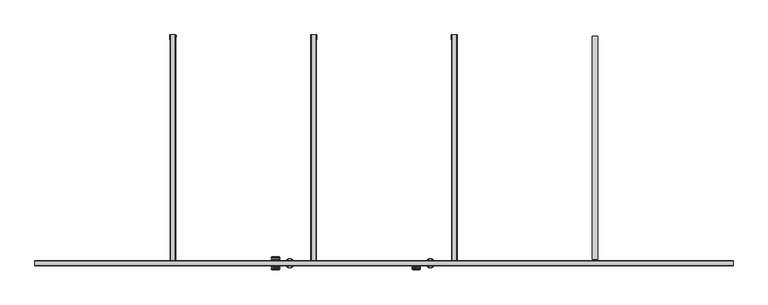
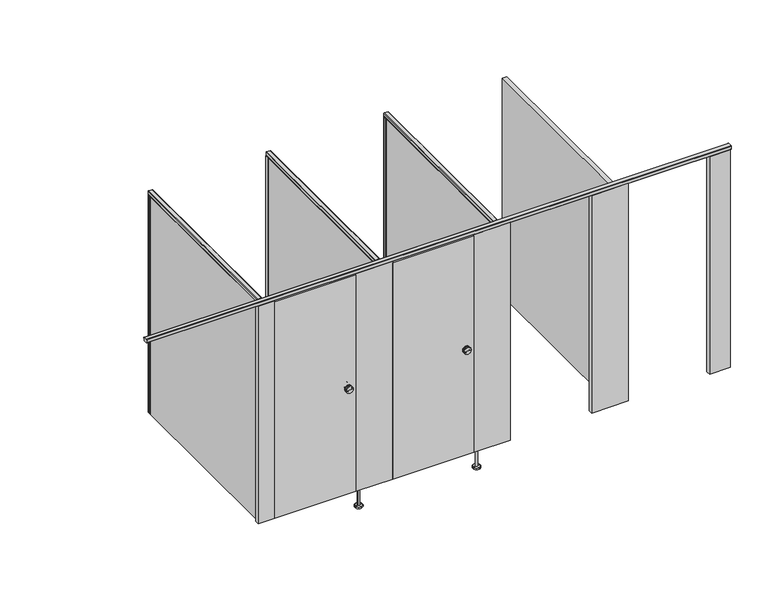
"""IFC4 building model written with IfcOpenShell, lengths in millimetres: proxy geometry, Partition_EuroStyle-Bradley_Corp-1AMB-4StandardStall-NEP-LOFT : Partition_EuroStyle-Bradley_Corp-1AMB-4StandardStall-NEP-LOFT."""

from ifc_helpers import new_model, si_unit, point, frame, frame_2d, origin, place, context, project, spatial, polyline, circle_curve, ellipse_curve, trimmed, segment, composite_curve, outline, extrude, source, transform, mapped, element, save
from ifc_brep_helpers import plane_surface, cylinder_surface, revolved_surface, advanced_brep


def specialty_equipment_0aaabcd9(model_context):
    return source(origin(), model_context, "Body", "SolidModel", [
        advanced_brep(
        [(2448.9221564, -1560.0098174, 1050.0), (2477.4971564, -1560.0098174, 1050.0), (2420.3471564, -1560.0098174, 1050.0), (2477.4971564, -1564.7723174, 1050.0), (2420.3471564, -1564.7723174, 1050.0), (2420.3471564, -1579.0598174, 1050.0), (2477.4971564, -1579.0598174, 1050.0), (2477.4971564, -1583.8223174, 1050.0), (2420.3471564, -1583.8223174, 1050.0), (2421.9346564, -1577.4723174, 1050.0), (2475.9096564, -1577.4723174, 1050.0), (2421.9346564, -1566.3598174, 1050.0), (2475.9096564, -1566.3598174, 1050.0), (2448.9221564, -1585.4098174, 1050.0)],
        [
            (0, 1),
            (1, 2, circle_curve(frame((2448.9221564, -1560.0098174, 1050.0), z_axis=(0.0, 1.0, 0.0), x_axis=(1.0000000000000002, 0.0, 0.0)), 28.575)),
            (2, 0),
            (2, 1, circle_curve(frame((2448.9221564, -1560.0098174, 1050.0), z_axis=(0.0, 1.0, 0.0), x_axis=(1.0000000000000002, 0.0, 0.0)), 28.575)),
            (1, 3),
            (3, 4, circle_curve(frame((2448.9221564, -1564.7723174, 1050.0), z_axis=(0.0, 1.0, 0.0), x_axis=(1.0000000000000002, 0.0, 0.0)), 28.575)),
            (4, 2),
            (4, 3, circle_curve(frame((2448.9221564, -1564.7723174, 1050.0), z_axis=(0.0, 1.0, 0.0), x_axis=(1.0000000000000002, 0.0, 0.0)), 28.575)),
            (5, 6, circle_curve(frame((2448.9221564, -1579.0598174, 1050.0), z_axis=(0.0, -1.0, 0.0), x_axis=(1.0000000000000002, 0.0, 0.0)), 28.575)),
            (6, 7),
            (7, 8, circle_curve(frame((2448.9221564, -1583.8223174, 1050.0), z_axis=(0.0, 1.0, 0.0), x_axis=(1.0000000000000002, 0.0, 0.0)), 28.575)),
            (8, 5),
            (6, 5, circle_curve(frame((2448.9221564, -1579.0598174, 1050.0), z_axis=(0.0, -1.0, 0.0), x_axis=(1.0000000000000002, 0.0, 0.0)), 28.575)),
            (8, 7, circle_curve(frame((2448.9221564, -1583.8223174, 1050.0), z_axis=(0.0, 1.0, 0.0), x_axis=(1.0000000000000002, 0.0, 0.0)), 28.575)),
            (9, 10, circle_curve(frame((2448.9221564, -1577.4723174, 1050.0), z_axis=(0.0, -1.0, 0.0), x_axis=(1.0000000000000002, 0.0, 0.0)), 26.9875)),
            (10, 6, circle_curve(frame((2477.4971564, -1577.4723174, 1050.0), z_axis=(0.0, 0.0, 1.0), x_axis=(1.0000000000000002, 0.0, 0.0)), 1.5875)),
            (5, 9, circle_curve(frame((2420.3471564, -1577.4723174, 1050.0), z_axis=(0.0, 0.0, 1.0), x_axis=(-1.0000000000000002, 0.0, 0.0)), 1.5875)),
            (10, 9, circle_curve(frame((2448.9221564, -1577.4723174, 1050.0), z_axis=(0.0, -1.0, 0.0), x_axis=(1.0000000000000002, 0.0, 0.0)), 26.9875)),
            (11, 12, circle_curve(frame((2448.9221564, -1566.3598174, 1050.0), z_axis=(0.0, -1.0, 0.0), x_axis=(1.0000000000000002, 0.0, 0.0)), 26.9875)),
            (12, 10),
            (9, 11),
            (12, 11, circle_curve(frame((2448.9221564, -1566.3598174, 1050.0), z_axis=(0.0, -1.0, 0.0), x_axis=(1.0000000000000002, 0.0, 0.0)), 26.9875)),
            (3, 12, circle_curve(frame((2477.4971564, -1566.3598174, 1050.0), z_axis=(0.0, 0.0, 1.0), x_axis=(1.0000000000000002, 0.0, 0.0)), 1.5875)),
            (11, 4, circle_curve(frame((2420.3471564, -1566.3598174, 1050.0), z_axis=(0.0, 0.0, 1.0), x_axis=(-1.0000000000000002, 0.0, 0.0)), 1.5875)),
            (7, 13, circle_curve(frame((2452.6162798, -1393.9352882, 1050.0), z_axis=(0.0, 0.0, -1.0), x_axis=(1.0000000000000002, 0.0, 0.0)), 191.5101613)),
            (13, 8, circle_curve(frame((2445.2280331, -1393.9352882, 1050.0), z_axis=(0.0, 0.0, -1.0), x_axis=(-1.0000000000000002, 0.0, 0.0)), 191.5101613)),
        ],
        [
            plane_surface(frame((2448.9221564, -1560.0098174, 1050.0), z_axis=(0.0, 1.0, 0.0), x_axis=(1.0, 0.0, 0.0))),
            cylinder_surface(frame((2448.9221564, -1560.0098174, 1050.0), z_axis=(0.0, 1.0000000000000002, 0.0), x_axis=(1.0000000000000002, 0.0, 0.0)), 28.575),
            revolved_surface(trimmed(ellipse_curve(frame((2477.4971564, -1577.4723174, 1050.0), z_axis=(0.0, 0.0, -1.0), x_axis=(1.0000000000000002, 0.0, 0.0)), 1.5875, 1.5875), [point((2477.4971564, -1579.0598174, 1050.0))], [point((2475.9096564, -1577.4723174, 1050.0))], True, "CARTESIAN"), (2448.9221564, -1560.0098174, 1050.0), (0.0, 1.0000000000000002, 0.0)),
            cylinder_surface(frame((2448.9221564, -1560.0098174, 1050.0), z_axis=(0.0, 1.0000000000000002, 0.0), x_axis=(1.0000000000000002, 0.0, 0.0)), 26.9875),
            revolved_surface(trimmed(ellipse_curve(frame((2477.4971564, -1566.3598174, 1050.0), z_axis=(0.0, 0.0, -1.0), x_axis=(1.0000000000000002, 0.0, 0.0)), 1.5875, 1.5875), [point((2475.9096564, -1566.3598174, 1050.0))], [point((2477.4971564, -1564.7723174, 1050.0))], True, "CARTESIAN"), (2448.9221564, -1560.0098174, 1050.0), (0.0, 1.0000000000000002, 0.0)),
            revolved_surface(trimmed(ellipse_curve(frame((2452.6162798, -1393.9352882, 1050.0), z_axis=(0.0, 0.0, 1.0), x_axis=(1.0000000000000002, 0.0, 0.0)), 191.5101613, 191.5101613), [point((2448.9221564, -1585.4098174, 1050.0))], [point((2477.4971564, -1583.8223174, 1050.0))], True, "CARTESIAN"), (2448.9221564, -1560.0098174, 1050.0), (0.0, 1.0000000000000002, 0.0)),
        ],
        [
            (0, [[1, 2, 3]]),
            (0, [[-3, 4, -1]]),
            (1, [[-2, 5, 6, 7]]),
            (1, [[-4, -7, 8, -5]]),
            (1, [[9, 10, 11, 12]]),
            (1, [[13, -12, 14, -10]]),
            (2, [[15, 16, -9, 17]]),
            (2, [[18, -17, -13, -16]]),
            (3, [[19, 20, -15, 21]]),
            (3, [[22, -21, -18, -20]]),
            (4, [[-6, 23, -19, 24]]),
            (4, [[-8, -24, -22, -23]]),
            (5, [[-11, 25, 26]]),
            (5, [[-14, -26, -25]]),
        ],
    ),
        extrude(outline(polyline([(1857.8170903, -1523.9894923), (2512.4221564, -1523.9894923), (2512.4221564, -1560.0098174), (1857.8170903, -1560.0098174), (1857.8170903, -1523.9894923)])), frame((0.0, 0.0, 150.1179687), z_axis=(0.0, 0.0, 1.0), x_axis=(1.0, 0.0, 0.0)), (0.0, 0.0, 1.0), 1845.8820313),
        extrude(outline(composite_curve([segment(polyline([(2685.7288796, -32.5000002), (2685.2205405, -2.02918)]), True, "CONTINUOUS"), segment(trimmed(circle_curve(frame_2d((2687.2497205, -2.02918)), 2.02918), [point((2685.2205405, -2.02918))], [point((2687.2497205, 0.0))], False, "CARTESIAN"), True, "CONTINUOUS"), segment(polyline([(2687.2497205, 0.0), (2725.1909298, 0.0)]), True, "CONTINUOUS"), segment(trimmed(circle_curve(frame_2d((2725.1909298, -2.02918)), 2.02918), [point((2725.1909298, 0.0))], [point((2727.2201098, -2.02918))], False, "CARTESIAN"), True, "CONTINUOUS"), segment(polyline([(2727.2201098, -2.02918), (2726.7117707, -32.5000002), (2725.2131851, -32.5000002)]), True, "CONTINUOUS"), segment(trimmed(circle_curve(frame_2d((2725.2167525, -31.5009082)), 0.9990984), [point((2725.2131851, -32.5000002))], [point((2724.7430999, -30.6212202))], False, "CARTESIAN"), True, "CONTINUOUS"), segment(polyline([(2724.7430999, -30.6212202), (2724.8642099, -23.3575702)]), True, "CONTINUOUS"), segment(trimmed(circle_curve(frame_2d((2725.3817558, -22.5000551)), 1.0015917), [point((2724.8642099, -23.3575702))], [point((2724.8926587, -21.6260013))], False, "CARTESIAN"), True, "CONTINUOUS"), segment(polyline([(2724.8926587, -21.6260013), (2725.18671, -4.0)]), True, "CONTINUOUS"), segment(trimmed(circle_curve(frame_2d((2723.1870154, -3.9990939)), 1.9996948), [point((2725.18671, -4.0))], [point((2723.1379958, -2.0))], True, "CARTESIAN"), True, "CONTINUOUS"), segment(polyline([(2723.1379958, -2.0), (2689.2536968, -2.0)]), True, "CONTINUOUS"), segment(trimmed(circle_curve(frame_2d((2689.2536968, -4.0002204)), 2.0002204), [point((2689.2536968, -2.0))], [point((2687.2535049, -3.9895469))], True, "CARTESIAN"), True, "CONTINUOUS"), segment(polyline([(2687.2535049, -3.9895469), (2687.5475604, -21.6257602)]), True, "CONTINUOUS"), segment(trimmed(circle_curve(frame_2d((2687.0588945, -22.5000551)), 1.0015917), [point((2687.5475604, -21.6257602))], [point((2687.5764404, -23.3575702))], False, "CARTESIAN"), True, "CONTINUOUS"), segment(polyline([(2687.5764404, -23.3575702), (2687.6975504, -30.6212202)]), True, "CONTINUOUS"), segment(trimmed(circle_curve(frame_2d((2687.2238978, -31.5009082)), 0.9990984), [point((2687.6975504, -30.6212202))], [point((2687.2274652, -32.5000002))], False, "CARTESIAN"), True, "CONTINUOUS"), segment(polyline([(2687.2274652, -32.5000002), (2685.7288796, -32.5000002)]), True, "CONTINUOUS")], self_intersect=False)), frame((0.0, 0.0, 150.0), z_axis=(0.0, 0.0, 1.0), x_axis=(1.0, 0.0, 0.0)), (0.0, 0.0, 1.0), 1855.0),
        extrude(outline(composite_curve([segment(polyline([(2032.9666591, 2688.2203701), (2005.7492965, 2688.6741806)]), True, "CONTINUOUS"), segment(trimmed(circle_curve(frame_2d((2005.762, 2689.4360747)), 0.762), [point((2005.7492965, 2688.6741806))], [point((2005.0, 2689.4360747))], False, "CARTESIAN"), True, "CONTINUOUS"), segment(polyline([(2005.0, 2689.4360747), (2005.0, 2722.9733505)]), True, "CONTINUOUS"), segment(trimmed(circle_curve(frame_2d((2005.79375, 2722.9733505)), 0.79375), [point((2005.0, 2722.9733505))], [point((2005.7805172, 2723.7669902))], False, "CARTESIAN"), True, "CONTINUOUS"), segment(polyline([(2005.7805172, 2723.7669902), (2032.9666591, 2724.2202802)]), True, "CONTINUOUS"), segment(trimmed(circle_curve(frame_2d((2033.0000015, 2722.2205597)), 1.9999985), [point((2032.9666591, 2724.2202802))], [point((2035.0, 2722.2205597))], False, "CARTESIAN"), True, "CONTINUOUS"), segment(polyline([(2035.0, 2722.2205597), (2035.0, 2690.2200907)]), True, "CONTINUOUS"), segment(trimmed(circle_curve(frame_2d((2033.0000015, 2690.2200907)), 1.9999985), [point((2035.0, 2690.2200907))], [point((2032.9666591, 2688.2203701))], False, "CARTESIAN"), True, "CONTINUOUS")], self_intersect=False)), frame((0.0, -1524.0, 0.0), z_axis=(0.0, 1.0, 0.0), x_axis=(0.0, 0.0, 1.0)), (0.0, 0.0, 1.0), 1524.0),
        advanced_brep(
        [(2535.3473053, -1541.9996549, 150.0000008), (2553.3473046, -1541.9996549, 150.0000008), (2553.3473046, -1541.9996549, 12.0000001), (2535.3473053, -1541.9996549, 12.0000001), (2544.347305, -1541.9996549, 150.0000008), (2513.347306, -1541.9996549, 0.0), (2575.3473039, -1541.9996549, 0.0), (2544.347305, -1541.9996549, 0.0), (2513.347306, -1541.9996549, 10.0000001), (2575.3473039, -1541.9996549, 10.0000001), (2515.3497179, -1541.9996549, 12.0000001), (2573.344892, -1541.9996549, 12.0000001)],
        [
            (0, 1, circle_curve(frame((2544.347305, -1541.9996549, 150.0000008), z_axis=(0.0, 0.0, -1.0), x_axis=(1.0, 0.0, 0.0)), 8.9999997)),
            (1, 2),
            (2, 3, circle_curve(frame((2544.347305, -1541.9996549, 12.0000001), z_axis=(0.0, 0.0, 1.0), x_axis=(1.0, 0.0, 0.0)), 8.9999997)),
            (3, 0),
            (1, 0, circle_curve(frame((2544.347305, -1541.9996549, 150.0000008), z_axis=(0.0, 0.0, -1.0), x_axis=(1.0, 0.0, 0.0)), 8.9999997)),
            (3, 2, circle_curve(frame((2544.347305, -1541.9996549, 12.0000001), z_axis=(0.0, 0.0, 1.0), x_axis=(1.0, 0.0, 0.0)), 8.9999997)),
            (4, 1),
            (0, 4),
            (5, 6, circle_curve(frame((2544.347305, -1541.9996549, 0.0), z_axis=(0.0, 0.0, -1.0), x_axis=(1.0, 0.0, 0.0)), 30.9999989)),
            (6, 7),
            (7, 5),
            (6, 5, circle_curve(frame((2544.347305, -1541.9996549, 0.0), z_axis=(0.0, 0.0, -1.0), x_axis=(1.0, 0.0, 0.0)), 30.9999989)),
            (8, 9, circle_curve(frame((2544.347305, -1541.9996549, 10.0000001), z_axis=(0.0, 0.0, -1.0), x_axis=(1.0, 0.0, 0.0)), 30.9999989)),
            (9, 6),
            (5, 8),
            (9, 8, circle_curve(frame((2544.347305, -1541.9996549, 10.0000001), z_axis=(0.0, 0.0, -1.0), x_axis=(1.0, 0.0, 0.0)), 30.9999989)),
            (10, 11, circle_curve(frame((2544.347305, -1541.9996549, 12.0000001), z_axis=(0.0, 0.0, -1.0), x_axis=(1.0, 0.0, 0.0)), 28.997587)),
            (11, 9),
            (8, 10),
            (11, 10, circle_curve(frame((2544.347305, -1541.9996549, 12.0000001), z_axis=(0.0, 0.0, -1.0), x_axis=(1.0, 0.0, 0.0)), 28.997587)),
            (2, 11),
            (10, 3),
        ],
        [
            cylinder_surface(frame((2544.347305, -1541.9996549, 0.0), z_axis=(0.0, 0.0, 1.0), x_axis=(1.0, 0.0, 0.0)), 8.9999997),
            plane_surface(frame((2544.347305, -1541.9996549, 150.0000008), z_axis=(0.0, 0.0, 1.0), x_axis=(1.0, 0.0, 0.0))),
            plane_surface(frame((2544.347305, -1541.9996549, 0.0), z_axis=(0.0, 0.0, -1.0), x_axis=(1.0, 0.0, 0.0))),
            cylinder_surface(frame((2544.347305, -1541.9996549, 0.0), z_axis=(0.0, 0.0, 1.0), x_axis=(1.0, 0.0, 0.0)), 30.9999989),
            revolved_surface(polyline([(2575.3473039, -1541.9996549, 10.0000001), (2573.344892, -1541.9996549, 12.0000001)]), (2544.347305, -1541.9996549, 0.0), (0.0, 0.0, 1.0)),
            plane_surface(frame((2544.347305, -1541.9996549, 12.0000001), z_axis=(0.0, 0.0, 1.0), x_axis=(1.0, 0.0, 0.0))),
        ],
        [
            (0, [[1, 2, 3, 4]]),
            (0, [[5, -4, 6, -2]]),
            (1, [[7, -1, 8]]),
            (1, [[-8, -5, -7]]),
            (2, [[9, 10, 11]]),
            (2, [[12, -11, -10]]),
            (3, [[13, 14, -9, 15]]),
            (3, [[16, -15, -12, -14]]),
            (4, [[17, 18, -13, 19]]),
            (4, [[20, -19, -16, -18]]),
            (5, [[-3, 21, -17, 22]]),
            (5, [[-6, -22, -20, -21]]),
        ],
    ),
        advanced_brep(
        [(1469.9471564, -1524.0098174, 1050.0), (1527.0971564, -1524.0098174, 1050.0), (1498.5221564, -1524.0098174, 1050.0), (1469.9471564, -1519.2473174, 1050.0), (1527.0971564, -1519.2473174, 1050.0), (1469.9471564, -1500.1973174, 1050.0), (1527.0971564, -1500.1973174, 1050.0), (1527.0971564, -1504.9598174, 1050.0), (1469.9471564, -1504.9598174, 1050.0), (1525.5096564, -1506.5473174, 1050.0), (1471.5346564, -1506.5473174, 1050.0), (1525.5096564, -1517.6598174, 1050.0), (1471.5346564, -1517.6598174, 1050.0), (1498.5221564, -1498.6098174, 1050.0)],
        [
            (0, 1, circle_curve(frame((1498.5221564, -1524.0098174, 1050.0), z_axis=(0.0, -1.0, 0.0), x_axis=(1.0000000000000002, 0.0, 0.0)), 28.575)),
            (1, 2),
            (2, 0),
            (1, 0, circle_curve(frame((1498.5221564, -1524.0098174, 1050.0), z_axis=(0.0, -1.0, 0.0), x_axis=(1.0000000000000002, 0.0, 0.0)), 28.575)),
            (3, 4, circle_curve(frame((1498.5221564, -1519.2473174, 1050.0), z_axis=(0.0, -1.0, 0.0), x_axis=(1.0000000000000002, 0.0, 0.0)), 28.575)),
            (4, 1),
            (0, 3),
            (4, 3, circle_curve(frame((1498.5221564, -1519.2473174, 1050.0), z_axis=(0.0, -1.0, 0.0), x_axis=(1.0000000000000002, 0.0, 0.0)), 28.575)),
            (5, 6, circle_curve(frame((1498.5221564, -1500.1973174, 1050.0), z_axis=(0.0, -1.0, 0.0), x_axis=(1.0000000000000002, 0.0, 0.0)), 28.575)),
            (6, 7),
            (7, 8, circle_curve(frame((1498.5221564, -1504.9598174, 1050.0), z_axis=(0.0, 1.0, 0.0), x_axis=(1.0000000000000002, 0.0, 0.0)), 28.575)),
            (8, 5),
            (6, 5, circle_curve(frame((1498.5221564, -1500.1973174, 1050.0), z_axis=(0.0, -1.0, 0.0), x_axis=(1.0000000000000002, 0.0, 0.0)), 28.575)),
            (8, 7, circle_curve(frame((1498.5221564, -1504.9598174, 1050.0), z_axis=(0.0, 1.0, 0.0), x_axis=(1.0000000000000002, 0.0, 0.0)), 28.575)),
            (7, 9, circle_curve(frame((1527.0971564, -1506.5473174, 1050.0), z_axis=(0.0, 0.0, 1.0), x_axis=(1.0000000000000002, 0.0, 0.0)), 1.5875)),
            (9, 10, circle_curve(frame((1498.5221564, -1506.5473174, 1050.0), z_axis=(0.0, 1.0, 0.0), x_axis=(1.0000000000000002, 0.0, 0.0)), 26.9875)),
            (10, 8, circle_curve(frame((1469.9471564, -1506.5473174, 1050.0), z_axis=(0.0, 0.0, 1.0), x_axis=(-1.0000000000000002, 0.0, 0.0)), 1.5875)),
            (10, 9, circle_curve(frame((1498.5221564, -1506.5473174, 1050.0), z_axis=(0.0, 1.0, 0.0), x_axis=(1.0000000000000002, 0.0, 0.0)), 26.9875)),
            (9, 11),
            (11, 12, circle_curve(frame((1498.5221564, -1517.6598174, 1050.0), z_axis=(0.0, 1.0, 0.0), x_axis=(1.0000000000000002, 0.0, 0.0)), 26.9875)),
            (12, 10),
            (12, 11, circle_curve(frame((1498.5221564, -1517.6598174, 1050.0), z_axis=(0.0, 1.0, 0.0), x_axis=(1.0000000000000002, 0.0, 0.0)), 26.9875)),
            (11, 4, circle_curve(frame((1527.0971564, -1517.6598174, 1050.0), z_axis=(0.0, 0.0, 1.0), x_axis=(1.0000000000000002, 0.0, 0.0)), 1.5875)),
            (3, 12, circle_curve(frame((1469.9471564, -1517.6598174, 1050.0), z_axis=(0.0, 0.0, 1.0), x_axis=(-1.0000000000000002, 0.0, 0.0)), 1.5875)),
            (13, 6, circle_curve(frame((1502.2162798, -1690.0843466, 1050.0), z_axis=(0.0, 0.0, -1.0), x_axis=(1.0000000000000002, 0.0, 0.0)), 191.5101613)),
            (5, 13, circle_curve(frame((1494.8280331, -1690.0843466, 1050.0), z_axis=(0.0, 0.0, -1.0), x_axis=(-1.0000000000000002, 0.0, 0.0)), 191.5101613)),
        ],
        [
            plane_surface(frame((1498.5221564, -1524.0098174, 1050.0), z_axis=(0.0, -1.0, 0.0), x_axis=(1.0, 0.0, 0.0))),
            cylinder_surface(frame((1498.5221564, -1524.0098174, 1050.0), z_axis=(0.0, 1.0000000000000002, 0.0), x_axis=(1.0000000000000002, 0.0, 0.0)), 28.575),
            revolved_surface(trimmed(ellipse_curve(frame((1527.0971564, -1506.5473174, 1050.0), z_axis=(0.0, 0.0, -1.0), x_axis=(1.0000000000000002, 0.0, 0.0)), 1.5875, 1.5875), [point((1525.5096564, -1506.5473174, 1050.0))], [point((1527.0971564, -1504.9598174, 1050.0))], True, "CARTESIAN"), (1498.5221564, -1524.0098174, 1050.0), (0.0, 1.0000000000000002, 0.0)),
            cylinder_surface(frame((1498.5221564, -1524.0098174, 1050.0), z_axis=(0.0, 1.0000000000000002, 0.0), x_axis=(1.0000000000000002, 0.0, 0.0)), 26.9875),
            revolved_surface(trimmed(ellipse_curve(frame((1527.0971564, -1517.6598174, 1050.0), z_axis=(0.0, 0.0, -1.0), x_axis=(1.0000000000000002, 0.0, 0.0)), 1.5875, 1.5875), [point((1527.0971564, -1519.2473174, 1050.0))], [point((1525.5096564, -1517.6598174, 1050.0))], True, "CARTESIAN"), (1498.5221564, -1524.0098174, 1050.0), (0.0, 1.0000000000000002, 0.0)),
            revolved_surface(trimmed(ellipse_curve(frame((1502.2162798, -1690.0843466, 1050.0), z_axis=(0.0, 0.0, 1.0), x_axis=(1.0000000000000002, 0.0, 0.0)), 191.5101613, 191.5101613), [point((1527.0971564, -1500.1973174, 1050.0))], [point((1498.5221564, -1498.6098174, 1050.0))], True, "CARTESIAN"), (1498.5221564, -1524.0098174, 1050.0), (0.0, 1.0000000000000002, 0.0)),
        ],
        [
            (0, [[1, 2, 3]]),
            (0, [[4, -3, -2]]),
            (1, [[5, 6, -1, 7]]),
            (1, [[8, -7, -4, -6]]),
            (1, [[9, 10, 11, 12]]),
            (1, [[13, -12, 14, -10]]),
            (2, [[-11, 15, 16, 17]]),
            (2, [[-14, -17, 18, -15]]),
            (3, [[-16, 19, 20, 21]]),
            (3, [[-18, -21, 22, -19]]),
            (4, [[-20, 23, -5, 24]]),
            (4, [[-22, -24, -8, -23]]),
            (5, [[25, -9, 26]]),
            (5, [[-26, -13, -25]]),
        ],
    ),
        advanced_brep(
        [(1498.5221564, -1560.0098174, 1050.0), (1527.0971564, -1560.0098174, 1050.0), (1469.9471564, -1560.0098174, 1050.0), (1527.0971564, -1564.7723174, 1050.0), (1469.9471564, -1564.7723174, 1050.0), (1469.9471564, -1579.0598174, 1050.0), (1527.0971564, -1579.0598174, 1050.0), (1527.0971564, -1583.8223174, 1050.0), (1469.9471564, -1583.8223174, 1050.0), (1471.5346564, -1577.4723174, 1050.0), (1525.5096564, -1577.4723174, 1050.0), (1471.5346564, -1566.3598174, 1050.0), (1525.5096564, -1566.3598174, 1050.0), (1498.5221564, -1585.4098174, 1050.0)],
        [
            (0, 1),
            (1, 2, circle_curve(frame((1498.5221564, -1560.0098174, 1050.0), z_axis=(0.0, 1.0, 0.0), x_axis=(1.0000000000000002, 0.0, 0.0)), 28.575)),
            (2, 0),
            (2, 1, circle_curve(frame((1498.5221564, -1560.0098174, 1050.0), z_axis=(0.0, 1.0, 0.0), x_axis=(1.0000000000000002, 0.0, 0.0)), 28.575)),
            (1, 3),
            (3, 4, circle_curve(frame((1498.5221564, -1564.7723174, 1050.0), z_axis=(0.0, 1.0, 0.0), x_axis=(1.0000000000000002, 0.0, 0.0)), 28.575)),
            (4, 2),
            (4, 3, circle_curve(frame((1498.5221564, -1564.7723174, 1050.0), z_axis=(0.0, 1.0, 0.0), x_axis=(1.0000000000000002, 0.0, 0.0)), 28.575)),
            (5, 6, circle_curve(frame((1498.5221564, -1579.0598174, 1050.0), z_axis=(0.0, -1.0, 0.0), x_axis=(1.0000000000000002, 0.0, 0.0)), 28.575)),
            (6, 7),
            (7, 8, circle_curve(frame((1498.5221564, -1583.8223174, 1050.0), z_axis=(0.0, 1.0, 0.0), x_axis=(1.0000000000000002, 0.0, 0.0)), 28.575)),
            (8, 5),
            (6, 5, circle_curve(frame((1498.5221564, -1579.0598174, 1050.0), z_axis=(0.0, -1.0, 0.0), x_axis=(1.0000000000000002, 0.0, 0.0)), 28.575)),
            (8, 7, circle_curve(frame((1498.5221564, -1583.8223174, 1050.0), z_axis=(0.0, 1.0, 0.0), x_axis=(1.0000000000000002, 0.0, 0.0)), 28.575)),
            (9, 10, circle_curve(frame((1498.5221564, -1577.4723174, 1050.0), z_axis=(0.0, -1.0, 0.0), x_axis=(1.0000000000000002, 0.0, 0.0)), 26.9875)),
            (10, 6, circle_curve(frame((1527.0971564, -1577.4723174, 1050.0), z_axis=(0.0, 0.0, 1.0), x_axis=(1.0000000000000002, 0.0, 0.0)), 1.5875)),
            (5, 9, circle_curve(frame((1469.9471564, -1577.4723174, 1050.0), z_axis=(0.0, 0.0, 1.0), x_axis=(-1.0000000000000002, 0.0, 0.0)), 1.5875)),
            (10, 9, circle_curve(frame((1498.5221564, -1577.4723174, 1050.0), z_axis=(0.0, -1.0, 0.0), x_axis=(1.0000000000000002, 0.0, 0.0)), 26.9875)),
            (11, 12, circle_curve(frame((1498.5221564, -1566.3598174, 1050.0), z_axis=(0.0, -1.0, 0.0), x_axis=(1.0000000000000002, 0.0, 0.0)), 26.9875)),
            (12, 10),
            (9, 11),
            (12, 11, circle_curve(frame((1498.5221564, -1566.3598174, 1050.0), z_axis=(0.0, -1.0, 0.0), x_axis=(1.0000000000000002, 0.0, 0.0)), 26.9875)),
            (3, 12, circle_curve(frame((1527.0971564, -1566.3598174, 1050.0), z_axis=(0.0, 0.0, 1.0), x_axis=(1.0000000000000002, 0.0, 0.0)), 1.5875)),
            (11, 4, circle_curve(frame((1469.9471564, -1566.3598174, 1050.0), z_axis=(0.0, 0.0, 1.0), x_axis=(-1.0000000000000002, 0.0, 0.0)), 1.5875)),
            (7, 13, circle_curve(frame((1502.2162798, -1393.9352882, 1050.0), z_axis=(0.0, 0.0, -1.0), x_axis=(1.0000000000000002, 0.0, 0.0)), 191.5101613)),
            (13, 8, circle_curve(frame((1494.8280331, -1393.9352882, 1050.0), z_axis=(0.0, 0.0, -1.0), x_axis=(-1.0000000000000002, 0.0, 0.0)), 191.5101613)),
        ],
        [
            plane_surface(frame((1498.5221564, -1560.0098174, 1050.0), z_axis=(0.0, 1.0, 0.0), x_axis=(1.0, 0.0, 0.0))),
            cylinder_surface(frame((1498.5221564, -1560.0098174, 1050.0), z_axis=(0.0, 1.0000000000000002, 0.0), x_axis=(1.0000000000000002, 0.0, 0.0)), 28.575),
            revolved_surface(trimmed(ellipse_curve(frame((1527.0971564, -1577.4723174, 1050.0), z_axis=(0.0, 0.0, -1.0), x_axis=(1.0000000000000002, 0.0, 0.0)), 1.5875, 1.5875), [point((1527.0971564, -1579.0598174, 1050.0))], [point((1525.5096564, -1577.4723174, 1050.0))], True, "CARTESIAN"), (1498.5221564, -1560.0098174, 1050.0), (0.0, 1.0000000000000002, 0.0)),
            cylinder_surface(frame((1498.5221564, -1560.0098174, 1050.0), z_axis=(0.0, 1.0000000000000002, 0.0), x_axis=(1.0000000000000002, 0.0, 0.0)), 26.9875),
            revolved_surface(trimmed(ellipse_curve(frame((1527.0971564, -1566.3598174, 1050.0), z_axis=(0.0, 0.0, -1.0), x_axis=(1.0000000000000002, 0.0, 0.0)), 1.5875, 1.5875), [point((1525.5096564, -1566.3598174, 1050.0))], [point((1527.0971564, -1564.7723174, 1050.0))], True, "CARTESIAN"), (1498.5221564, -1560.0098174, 1050.0), (0.0, 1.0000000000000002, 0.0)),
            revolved_surface(trimmed(ellipse_curve(frame((1502.2162798, -1393.9352882, 1050.0), z_axis=(0.0, 0.0, 1.0), x_axis=(1.0000000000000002, 0.0, 0.0)), 191.5101613, 191.5101613), [point((1498.5221564, -1585.4098174, 1050.0))], [point((1527.0971564, -1583.8223174, 1050.0))], True, "CARTESIAN"), (1498.5221564, -1560.0098174, 1050.0), (0.0, 1.0000000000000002, 0.0)),
        ],
        [
            (0, [[1, 2, 3]]),
            (0, [[-3, 4, -1]]),
            (1, [[-2, 5, 6, 7]]),
            (1, [[-4, -7, 8, -5]]),
            (1, [[9, 10, 11, 12]]),
            (1, [[13, -12, 14, -10]]),
            (2, [[15, 16, -9, 17]]),
            (2, [[18, -17, -13, -16]]),
            (3, [[19, 20, -15, 21]]),
            (3, [[22, -21, -18, -20]]),
            (4, [[-6, 23, -19, 24]]),
            (4, [[-8, -24, -22, -23]]),
            (5, [[-11, 25, 26]]),
            (5, [[-14, -26, -25]]),
        ],
    ),
        extrude(outline(polyline([(907.4170903, -1523.9894923), (1562.0221564, -1523.9894923), (1562.0221564, -1560.0098174), (907.4170903, -1560.0098174), (907.4170903, -1523.9894923)])), frame((0.0, 0.0, 150.1179687), z_axis=(0.0, 0.0, 1.0), x_axis=(1.0, 0.0, 0.0)), (0.0, 0.0, 1.0), 1845.8820313),
        extrude(outline(composite_curve([segment(polyline([(1735.3288796, -32.5000002), (1734.8205405, -2.02918)]), True, "CONTINUOUS"), segment(trimmed(circle_curve(frame_2d((1736.8497205, -2.02918)), 2.02918), [point((1734.8205405, -2.02918))], [point((1736.8497205, 0.0))], False, "CARTESIAN"), True, "CONTINUOUS"), segment(polyline([(1736.8497205, 0.0), (1774.7909298, 0.0)]), True, "CONTINUOUS"), segment(trimmed(circle_curve(frame_2d((1774.7909298, -2.02918)), 2.02918), [point((1774.7909298, 0.0))], [point((1776.8201098, -2.02918))], False, "CARTESIAN"), True, "CONTINUOUS"), segment(polyline([(1776.8201098, -2.02918), (1776.3117707, -32.5000002), (1774.8131851, -32.5000002)]), True, "CONTINUOUS"), segment(trimmed(circle_curve(frame_2d((1774.8167525, -31.5009082)), 0.9990984), [point((1774.8131851, -32.5000002))], [point((1774.3430999, -30.6212202))], False, "CARTESIAN"), True, "CONTINUOUS"), segment(polyline([(1774.3430999, -30.6212202), (1774.4642099, -23.3575702)]), True, "CONTINUOUS"), segment(trimmed(circle_curve(frame_2d((1774.9817558, -22.5000551)), 1.0015917), [point((1774.4642099, -23.3575702))], [point((1774.4926587, -21.6260013))], False, "CARTESIAN"), True, "CONTINUOUS"), segment(polyline([(1774.4926587, -21.6260013), (1774.78671, -4.0)]), True, "CONTINUOUS"), segment(trimmed(circle_curve(frame_2d((1772.7870154, -3.9990939)), 1.9996948), [point((1774.78671, -4.0))], [point((1772.7379958, -2.0))], True, "CARTESIAN"), True, "CONTINUOUS"), segment(polyline([(1772.7379958, -2.0), (1738.8536968, -2.0)]), True, "CONTINUOUS"), segment(trimmed(circle_curve(frame_2d((1738.8536968, -4.0002204)), 2.0002204), [point((1738.8536968, -2.0))], [point((1736.8535049, -3.9895469))], True, "CARTESIAN"), True, "CONTINUOUS"), segment(polyline([(1736.8535049, -3.9895469), (1737.1475604, -21.6257602)]), True, "CONTINUOUS"), segment(trimmed(circle_curve(frame_2d((1736.6588945, -22.5000551)), 1.0015917), [point((1737.1475604, -21.6257602))], [point((1737.1764404, -23.3575702))], False, "CARTESIAN"), True, "CONTINUOUS"), segment(polyline([(1737.1764404, -23.3575702), (1737.2975504, -30.6212202)]), True, "CONTINUOUS"), segment(trimmed(circle_curve(frame_2d((1736.8238978, -31.5009082)), 0.9990984), [point((1737.2975504, -30.6212202))], [point((1736.8274652, -32.5000002))], False, "CARTESIAN"), True, "CONTINUOUS"), segment(polyline([(1736.8274652, -32.5000002), (1735.3288796, -32.5000002)]), True, "CONTINUOUS")], self_intersect=False)), frame((0.0, 0.0, 150.0), z_axis=(0.0, 0.0, 1.0), x_axis=(1.0, 0.0, 0.0)), (0.0, 0.0, 1.0), 1855.0),
        extrude(outline(composite_curve([segment(polyline([(784.918717, -32.5000002), (784.4103779, -2.02918)]), True, "CONTINUOUS"), segment(trimmed(circle_curve(frame_2d((786.4395579, -2.02918)), 2.02918), [point((784.4103779, -2.02918))], [point((786.4395579, 0.0))], False, "CARTESIAN"), True, "CONTINUOUS"), segment(polyline([(786.4395579, 0.0), (824.3807672, 0.0)]), True, "CONTINUOUS"), segment(trimmed(circle_curve(frame_2d((824.3807672, -2.02918)), 2.02918), [point((824.3807672, 0.0))], [point((826.4099473, -2.02918))], False, "CARTESIAN"), True, "CONTINUOUS"), segment(polyline([(826.4099473, -2.02918), (825.9016081, -32.5000002), (824.4030225, -32.5000002)]), True, "CONTINUOUS"), segment(trimmed(circle_curve(frame_2d((824.4065899, -31.5009082)), 0.9990984), [point((824.4030225, -32.5000002))], [point((823.9329373, -30.6212202))], False, "CARTESIAN"), True, "CONTINUOUS"), segment(polyline([(823.9329373, -30.6212202), (824.0540473, -23.3575702)]), True, "CONTINUOUS"), segment(trimmed(circle_curve(frame_2d((824.5715932, -22.5000551)), 1.0015917), [point((824.0540473, -23.3575702))], [point((824.0824961, -21.6260013))], False, "CARTESIAN"), True, "CONTINUOUS"), segment(polyline([(824.0824961, -21.6260013), (824.3765475, -4.0)]), True, "CONTINUOUS"), segment(trimmed(circle_curve(frame_2d((822.3768528, -3.9990939)), 1.9996948), [point((824.3765475, -4.0))], [point((822.3278332, -2.0))], True, "CARTESIAN"), True, "CONTINUOUS"), segment(polyline([(822.3278332, -2.0), (788.4435342, -2.0)]), True, "CONTINUOUS"), segment(trimmed(circle_curve(frame_2d((788.4435342, -4.0002204)), 2.0002204), [point((788.4435342, -2.0))], [point((786.4433424, -3.9895469))], True, "CARTESIAN"), True, "CONTINUOUS"), segment(polyline([(786.4433424, -3.9895469), (786.7373979, -21.6257602)]), True, "CONTINUOUS"), segment(trimmed(circle_curve(frame_2d((786.248732, -22.5000551)), 1.0015917), [point((786.7373979, -21.6257602))], [point((786.7662779, -23.3575702))], False, "CARTESIAN"), True, "CONTINUOUS"), segment(polyline([(786.7662779, -23.3575702), (786.8873879, -30.6212202)]), True, "CONTINUOUS"), segment(trimmed(circle_curve(frame_2d((786.4137352, -31.5009082)), 0.9990984), [point((786.8873879, -30.6212202))], [point((786.4173026, -32.5000002))], False, "CARTESIAN"), True, "CONTINUOUS"), segment(polyline([(786.4173026, -32.5000002), (784.918717, -32.5000002)]), True, "CONTINUOUS")], self_intersect=False)), frame((0.0, 0.0, 150.0), z_axis=(0.0, 0.0, 1.0), x_axis=(1.0, 0.0, 0.0)), (0.0, 0.0, 1.0), 1855.0),
        extrude(outline(composite_curve([segment(polyline([(2032.9666591, 1737.8203701), (2005.7492965, 1738.2741806)]), True, "CONTINUOUS"), segment(trimmed(circle_curve(frame_2d((2005.762, 1739.0360747)), 0.762), [point((2005.7492965, 1738.2741806))], [point((2005.0, 1739.0360747))], False, "CARTESIAN"), True, "CONTINUOUS"), segment(polyline([(2005.0, 1739.0360747), (2005.0, 1772.5733505)]), True, "CONTINUOUS"), segment(trimmed(circle_curve(frame_2d((2005.79375, 1772.5733505)), 0.79375), [point((2005.0, 1772.5733505))], [point((2005.7805172, 1773.3669902))], False, "CARTESIAN"), True, "CONTINUOUS"), segment(polyline([(2005.7805172, 1773.3669902), (2032.9666591, 1773.8202802)]), True, "CONTINUOUS"), segment(trimmed(circle_curve(frame_2d((2033.0000015, 1771.8205597)), 1.9999985), [point((2032.9666591, 1773.8202802))], [point((2035.0, 1771.8205597))], False, "CARTESIAN"), True, "CONTINUOUS"), segment(polyline([(2035.0, 1771.8205597), (2035.0, 1739.8200907)]), True, "CONTINUOUS"), segment(trimmed(circle_curve(frame_2d((2033.0000015, 1739.8200907)), 1.9999985), [point((2035.0, 1739.8200907))], [point((2032.9666591, 1737.8203701))], False, "CARTESIAN"), True, "CONTINUOUS")], self_intersect=False)), frame((0.0, -1524.0, 0.0), z_axis=(0.0, 1.0, 0.0), x_axis=(0.0, 0.0, 1.0)), (0.0, 0.0, 1.0), 1524.0),
        extrude(outline(composite_curve([segment(polyline([(-1523.9996998, 2032.9666591), (-1524.4535103, 2005.7492965)]), True, "CONTINUOUS"), segment(trimmed(circle_curve(frame_2d((-1525.2154044, 2005.762)), 0.762), [point((-1524.4535103, 2005.7492965))], [point((-1525.2154044, 2005.0))], False, "CARTESIAN"), True, "CONTINUOUS"), segment(polyline([(-1525.2154044, 2005.0), (-1558.7526802, 2005.0)]), True, "CONTINUOUS"), segment(trimmed(circle_curve(frame_2d((-1558.7526802, 2005.79375)), 0.79375), [point((-1558.7526802, 2005.0))], [point((-1559.5463199, 2005.7805172))], False, "CARTESIAN"), True, "CONTINUOUS"), segment(polyline([(-1559.5463199, 2005.7805172), (-1559.9996099, 2032.9666591)]), True, "CONTINUOUS"), segment(trimmed(circle_curve(frame_2d((-1557.9998894, 2033.0000015)), 1.9999985), [point((-1559.9996099, 2032.9666591))], [point((-1557.9998894, 2035.0))], False, "CARTESIAN"), True, "CONTINUOUS"), segment(polyline([(-1557.9998894, 2035.0), (-1525.9994204, 2035.0)]), True, "CONTINUOUS"), segment(trimmed(circle_curve(frame_2d((-1525.9994204, 2033.0000015)), 1.9999985), [point((-1525.9994204, 2035.0))], [point((-1523.9996998, 2032.9666591))], False, "CARTESIAN"), True, "CONTINUOUS")], self_intersect=False)), frame((-127.0, 0.0, 0.0), z_axis=(1.0, 0.0, 0.0), x_axis=(0.0, 1.0, 0.0)), (0.0, 0.0, 1.0), 4716.0203251),
        extrude(outline(composite_curve([segment(polyline([(2032.9666591, 787.4102076), (2005.7492965, 787.8640181)]), True, "CONTINUOUS"), segment(trimmed(circle_curve(frame_2d((2005.762, 788.6259122)), 0.762), [point((2005.7492965, 787.8640181))], [point((2005.0, 788.6259122))], False, "CARTESIAN"), True, "CONTINUOUS"), segment(polyline([(2005.0, 788.6259122), (2005.0, 822.163188)]), True, "CONTINUOUS"), segment(trimmed(circle_curve(frame_2d((2005.79375, 822.163188)), 0.79375), [point((2005.0, 822.163188))], [point((2005.7805172, 822.9568277))], False, "CARTESIAN"), True, "CONTINUOUS"), segment(polyline([(2005.7805172, 822.9568277), (2032.9666591, 823.4101176)]), True, "CONTINUOUS"), segment(trimmed(circle_curve(frame_2d((2033.0000015, 821.4103971)), 1.9999985), [point((2032.9666591, 823.4101176))], [point((2035.0, 821.4103971))], False, "CARTESIAN"), True, "CONTINUOUS"), segment(polyline([(2035.0, 821.4103971), (2035.0, 789.4099281)]), True, "CONTINUOUS"), segment(trimmed(circle_curve(frame_2d((2033.0000015, 789.4099281)), 1.9999985), [point((2035.0, 789.4099281))], [point((2032.9666591, 787.4102076))], False, "CARTESIAN"), True, "CONTINUOUS")], self_intersect=False)), frame((0.0, -1524.0, 0.0), z_axis=(0.0, 1.0, 0.0), x_axis=(0.0, 0.0, 1.0)), (0.0, 0.0, 1.0), 1524.0),
        advanced_brep(
        [(1584.9473053, -1541.9996549, 150.0000008), (1602.9473046, -1541.9996549, 150.0000008), (1602.9473046, -1541.9996549, 12.0000001), (1584.9473053, -1541.9996549, 12.0000001), (1593.947305, -1541.9996549, 150.0000008), (1562.947306, -1541.9996549, 0.0), (1624.9473039, -1541.9996549, 0.0), (1593.947305, -1541.9996549, 0.0), (1562.947306, -1541.9996549, 10.0000001), (1624.9473039, -1541.9996549, 10.0000001), (1564.9497179, -1541.9996549, 12.0000001), (1622.944892, -1541.9996549, 12.0000001)],
        [
            (0, 1, circle_curve(frame((1593.947305, -1541.9996549, 150.0000008), z_axis=(0.0, 0.0, -1.0), x_axis=(1.0, 0.0, 0.0)), 8.9999997)),
            (1, 2),
            (2, 3, circle_curve(frame((1593.947305, -1541.9996549, 12.0000001), z_axis=(0.0, 0.0, 1.0), x_axis=(1.0, 0.0, 0.0)), 8.9999997)),
            (3, 0),
            (1, 0, circle_curve(frame((1593.947305, -1541.9996549, 150.0000008), z_axis=(0.0, 0.0, -1.0), x_axis=(1.0, 0.0, 0.0)), 8.9999997)),
            (3, 2, circle_curve(frame((1593.947305, -1541.9996549, 12.0000001), z_axis=(0.0, 0.0, 1.0), x_axis=(1.0, 0.0, 0.0)), 8.9999997)),
            (4, 1),
            (0, 4),
            (5, 6, circle_curve(frame((1593.947305, -1541.9996549, 0.0), z_axis=(0.0, 0.0, -1.0), x_axis=(1.0, 0.0, 0.0)), 30.9999989)),
            (6, 7),
            (7, 5),
            (6, 5, circle_curve(frame((1593.947305, -1541.9996549, 0.0), z_axis=(0.0, 0.0, -1.0), x_axis=(1.0, 0.0, 0.0)), 30.9999989)),
            (8, 9, circle_curve(frame((1593.947305, -1541.9996549, 10.0000001), z_axis=(0.0, 0.0, -1.0), x_axis=(1.0, 0.0, 0.0)), 30.9999989)),
            (9, 6),
            (5, 8),
            (9, 8, circle_curve(frame((1593.947305, -1541.9996549, 10.0000001), z_axis=(0.0, 0.0, -1.0), x_axis=(1.0, 0.0, 0.0)), 30.9999989)),
            (10, 11, circle_curve(frame((1593.947305, -1541.9996549, 12.0000001), z_axis=(0.0, 0.0, -1.0), x_axis=(1.0, 0.0, 0.0)), 28.997587)),
            (11, 9),
            (8, 10),
            (11, 10, circle_curve(frame((1593.947305, -1541.9996549, 12.0000001), z_axis=(0.0, 0.0, -1.0), x_axis=(1.0, 0.0, 0.0)), 28.997587)),
            (2, 11),
            (10, 3),
        ],
        [
            cylinder_surface(frame((1593.947305, -1541.9996549, 0.0), z_axis=(0.0, 0.0, 1.0), x_axis=(1.0, 0.0, 0.0)), 8.9999997),
            plane_surface(frame((1593.947305, -1541.9996549, 150.0000008), z_axis=(0.0, 0.0, 1.0), x_axis=(1.0, 0.0, 0.0))),
            plane_surface(frame((1593.947305, -1541.9996549, 0.0), z_axis=(0.0, 0.0, -1.0), x_axis=(1.0, 0.0, 0.0))),
            cylinder_surface(frame((1593.947305, -1541.9996549, 0.0), z_axis=(0.0, 0.0, 1.0), x_axis=(1.0, 0.0, 0.0)), 30.9999989),
            revolved_surface(polyline([(1624.9473039, -1541.9996549, 10.0000001), (1622.944892, -1541.9996549, 12.0000001)]), (1593.947305, -1541.9996549, 0.0), (0.0, 0.0, 1.0)),
            plane_surface(frame((1593.947305, -1541.9996549, 12.0000001), z_axis=(0.0, 0.0, 1.0), x_axis=(1.0, 0.0, 0.0))),
        ],
        [
            (0, [[1, 2, 3, 4]]),
            (0, [[5, -4, 6, -2]]),
            (1, [[7, -1, 8]]),
            (1, [[-8, -5, -7]]),
            (2, [[9, 10, 11]]),
            (2, [[12, -11, -10]]),
            (3, [[13, 14, -9, 15]]),
            (3, [[16, -15, -12, -14]]),
            (4, [[17, 18, -13, 19]]),
            (4, [[20, -19, -16, -18]]),
            (5, [[-3, 21, -17, 22]]),
            (5, [[-6, -22, -20, -21]]),
        ],
    ),
        extrude(outline(polyline([(3638.6203251, -1514.0), (3638.6203251, -9.9993891), (3674.6203251, -9.9993891), (3674.6203251, -1514.0), (3638.6203251, -1514.0)])), frame((0.0, 0.0, 150.0), z_axis=(0.0, 0.0, 1.0), x_axis=(1.0, 0.0, 0.0)), (0.0, 0.0, 1.0), 1855.0),
        extrude(outline(polyline([(4413.7201766, -1524.0), (4579.1143251, -1524.0), (4579.1143251, -1559.9996549), (4413.7201766, -1559.9996549), (4413.7201766, -1524.0)])), frame((0.0, 0.0, 150.0), z_axis=(0.0, 0.0, 1.0), x_axis=(1.0, 0.0, 0.0)), (0.0, 0.0, 1.0), 1855.0),
        extrude(outline(polyline([(907.4170903, -1524.0), (907.4170903, -1559.9996549), (772.7966167, -1559.9996549), (772.7966167, -1524.0), (907.4170903, -1524.0)])), frame((0.0, 0.0, 150.0), z_axis=(0.0, 0.0, 1.0), x_axis=(1.0, 0.0, 0.0)), (0.0, 0.0, 1.0), 1855.0),
        extrude(outline(polyline([(1857.8170903, -1524.0), (1857.8170903, -1559.9996549), (1562.0221564, -1559.9996549), (1562.0221564, -1524.0), (1857.8170903, -1524.0)])), frame((0.0, 0.0, 150.0), z_axis=(0.0, 0.0, 1.0), x_axis=(1.0, 0.0, 0.0)), (0.0, 0.0, 1.0), 1855.0),
        extrude(outline(polyline([(2808.2170903, -1524.0), (2808.2170903, -1559.9996549), (2512.4221564, -1559.9996549), (2512.4221564, -1524.0), (2808.2170903, -1524.0)])), frame((0.0, 0.0, 150.0), z_axis=(0.0, 0.0, 1.0), x_axis=(1.0, 0.0, 0.0)), (0.0, 0.0, 1.0), 1855.0),
        extrude(outline(polyline([(3462.8221564, -1524.0), (3758.6203251, -1524.0), (3758.6203251, -1559.9996549), (3462.8221564, -1559.9996549), (3462.8221564, -1524.0)])), frame((0.0, 0.0, 150.0), z_axis=(0.0, 0.0, 1.0), x_axis=(1.0, 0.0, 0.0)), (0.0, 0.0, 1.0), 1855.0),
        extrude(outline(polyline([(2688.2203251, -1514.0), (2688.2203251, -9.9993891), (2724.2203251, -9.9993891), (2724.2203251, -1514.0), (2688.2203251, -1514.0)])), frame((0.0, 0.0, 150.0), z_axis=(0.0, 0.0, 1.0), x_axis=(1.0, 0.0, 0.0)), (0.0, 0.0, 1.0), 1855.0),
        extrude(outline(polyline([(1737.8203251, -1514.0), (1737.8203251, -9.9993891), (1773.8203251, -9.9993891), (1773.8203251, -1514.0), (1737.8203251, -1514.0)])), frame((0.0, 0.0, 150.0), z_axis=(0.0, 0.0, 1.0), x_axis=(1.0, 0.0, 0.0)), (0.0, 0.0, 1.0), 1855.0),
        extrude(outline(polyline([(787.4, -1524.0), (787.4, -9.9993891), (823.4203251, -9.9993891), (823.4203251, -1524.0), (787.4, -1524.0)])), frame((0.0, 0.0, 150.0), z_axis=(0.0, 0.0, 1.0), x_axis=(1.0, 0.0, 0.0)), (0.0, 0.0, 1.0), 1855.0),
    ])


if __name__ == "__main__":
    model = new_model("IFC4")
    model_context = context("Model", 3, world=origin())
    ifc_project = project(units=[si_unit("LENGTHUNIT", "METRE", prefix="MILLI")], contexts=[model_context])
    site = spatial("IfcSite", under=ifc_project)
    building = spatial("IfcBuilding", under=site)
    placement = place(None, origin())
    specialty_equipment_shape = specialty_equipment_0aaabcd9(model_context)
    element("IfcBuildingElementProxy", 1, Name="Partition_EuroStyle-Bradley_Corp-1AMB-4StandardStall-NEP-LOFT : Partition_EuroStyle-Bradley_Corp-1AMB-4StandardStall-NEP-LOFT", ObjectType="Partition_EuroStyle-Bradley_Corp-1AMB-4StandardStall-NEP-LOFT : Partition_EuroStyle-Bradley_Corp-1AMB-4StandardStall-NEP-LOFT", at=placement, inside=building, context=model_context, shape_type="MappedRepresentation", body=[
        mapped(specialty_equipment_shape, transform((0.0, 0.0, 0.0), x_axis=(1.0, 0.0, 0.0), y_axis=(0.0, 1.0, 0.0), z_axis=(0.0, 0.0, 1.0))),
    ])
    save(model, "model.ifc")
